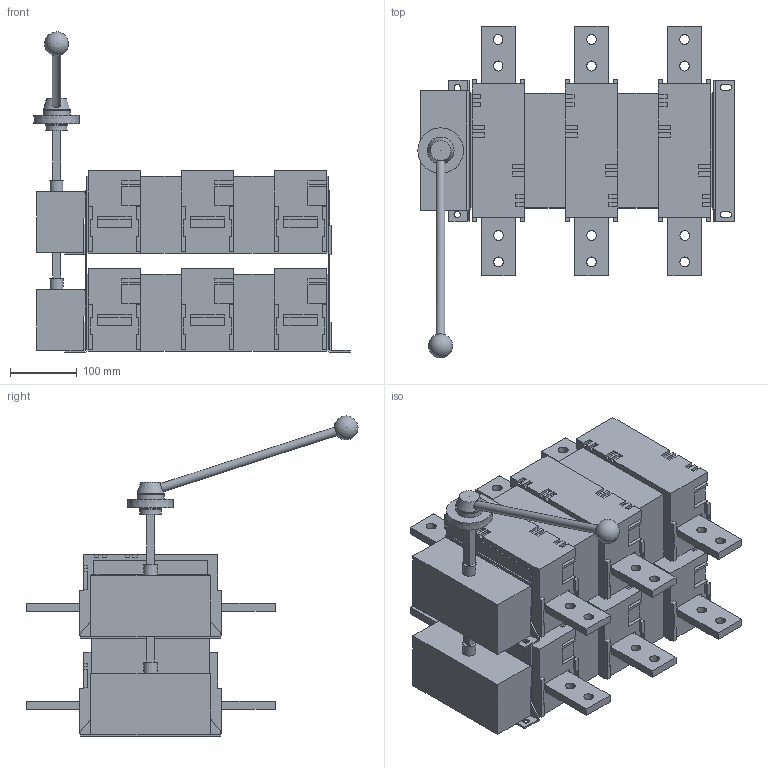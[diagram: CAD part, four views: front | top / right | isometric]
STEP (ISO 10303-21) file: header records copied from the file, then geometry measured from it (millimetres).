
FILE_DESCRIPTION (( 'STEP AP203' ), '1' );
FILE_NAME ('OptiSwitch DI-5-2000-3P (m=35羱).STEP', '2023-02-26T21:23:08', ( '砐錪賧瘔蠈錪' ), ( '' ), 'SwSTEP 2.0', 'SolidWorks 2018', '' );
FILE_SCHEMA (( 'CONFIG_CONTROL_DESIGN' ));
Length unit declared in the file: millimetre
Products named in the file (1): OptiSwitch DI-5-2000-3P (m=35羱)
Bounding box: 472.2 x 495.58 x 477.84 mm (x, y, z)
Volume: 19841871.5 mm3; surface area: 948152.3 mm2
Topology: 1 solids, 9 shells, 944 faces, 2673 edges, 1761 vertices
Faces by surface type: plane 843, cylinder 79, cone 21, sphere 1
Full cylindrical faces by diameter (mm): 8.1 x6, 8.5 x2, 9.5 x4, 12 x8, 13 x1
Entity records: 30064 total; most frequent: CARTESIAN_POINT 5561, ORIENTED_EDGE 5222, DIRECTION 4656, EDGE_CURVE 2611, VECTOR 2414, LINE 2414, VERTEX_POINT 1743, AXIS2_PLACEMENT_3D 1121
